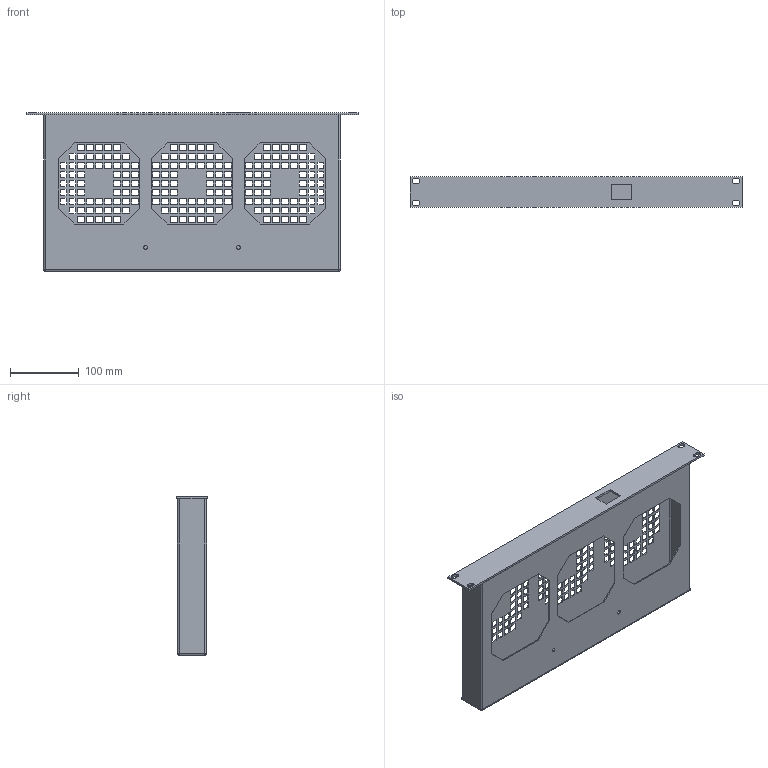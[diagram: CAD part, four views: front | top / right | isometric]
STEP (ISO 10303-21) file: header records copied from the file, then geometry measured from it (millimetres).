
FILE_DESCRIPTION (( 'STEP AP203' ), '1' );
FILE_NAME ('FI 03.230 Ìîäóëü âåíòèëÿòîðíûé.STEP', '2013-01-14T12:41:27', ( 'Àëåêñàíäð' ), ( 'Ïðîâåíòî' ), 'SwSTEP 2.0', 'SolidWorks 2012', '' );
FILE_SCHEMA (( 'CONFIG_CONTROL_DESIGN' ));
Length unit declared in the file: millimetre
Products named in the file (1): FI 03.230 Ìîäóëü âåíòèëÿòîðíûé
Bounding box: 482.6 x 43.7 x 230.7 mm (x, y, z)
Volume: 270518.3 mm3; surface area: 402639.6 mm2
Topology: 1 solids, 1 shells, 1537 faces, 4580 edges, 3040 vertices
Faces by surface type: plane 775, cylinder 754, sphere 8
Entity records: 52739 total; most frequent: DIRECTION 9156, CARTESIAN_POINT 9150, ORIENTED_EDGE 9144, EDGE_CURVE 4572, LINE 3064, VECTOR 3064, AXIS2_PLACEMENT_3D 3046, VERTEX_POINT 3040
